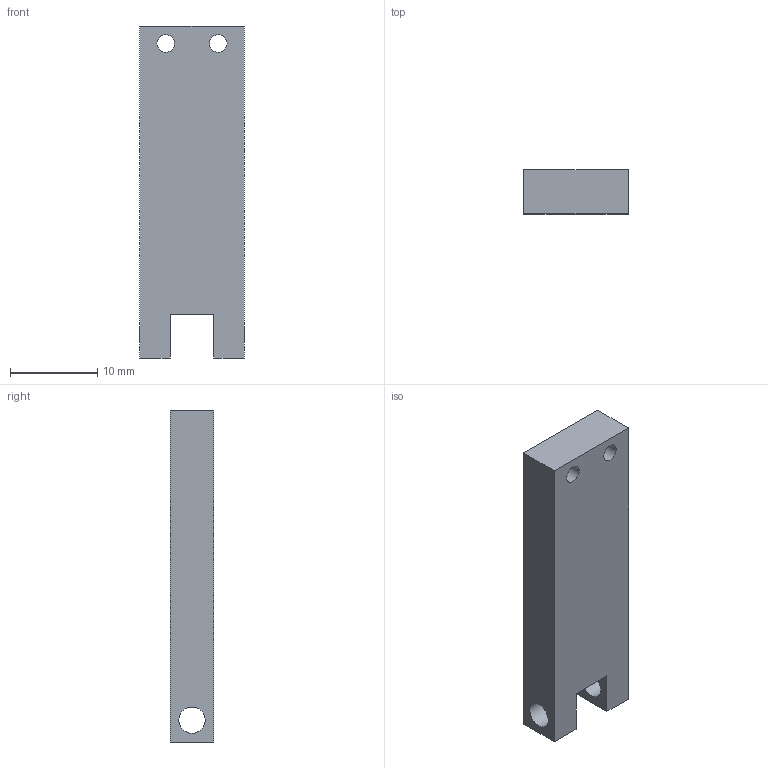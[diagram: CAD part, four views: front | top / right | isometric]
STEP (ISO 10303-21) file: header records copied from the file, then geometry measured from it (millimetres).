
FILE_DESCRIPTION(/* description */ (''),/* implementation_level */ '2;1');
FILE_NAME(/* name */ 'C:\Users\xxnew\Desktop\Dossier Méca usinage ESME\Ferromagnétique\kicker_goupille.stp',/* time_stamp */ '2020-10-21T17:57:57+02:00',/* author */ ('xxnew'),/* organization */ (''),/* preprocessor_version */ 'ST-DEVELOPER v17',/* originating_system */ 'Autodesk Inventor 2019',/* authorisation */ '');
FILE_SCHEMA (('AUTOMOTIVE_DESIGN { 1 0 10303 214 3 1 1 }'));
Length unit declared in the file: millimetre
Products named in the file (1): kicker_goupille
Bounding box: 12 x 5 x 38 mm (x, y, z)
Volume: 2073.7 mm3; surface area: 1500.2 mm2
Topology: 1 solids, 1 shells, 14 faces, 38 edges, 26 vertices
Faces by surface type: plane 10, cylinder 4
Full cylindrical faces by diameter (mm): 2.013 x2, 3 x2
Entity records: 522 total; most frequent: CARTESIAN_POINT 79, DIRECTION 78, ORIENTED_EDGE 76, EDGE_CURVE 38, LINE 28, VECTOR 28, VERTEX_POINT 26, AXIS2_PLACEMENT_3D 25
